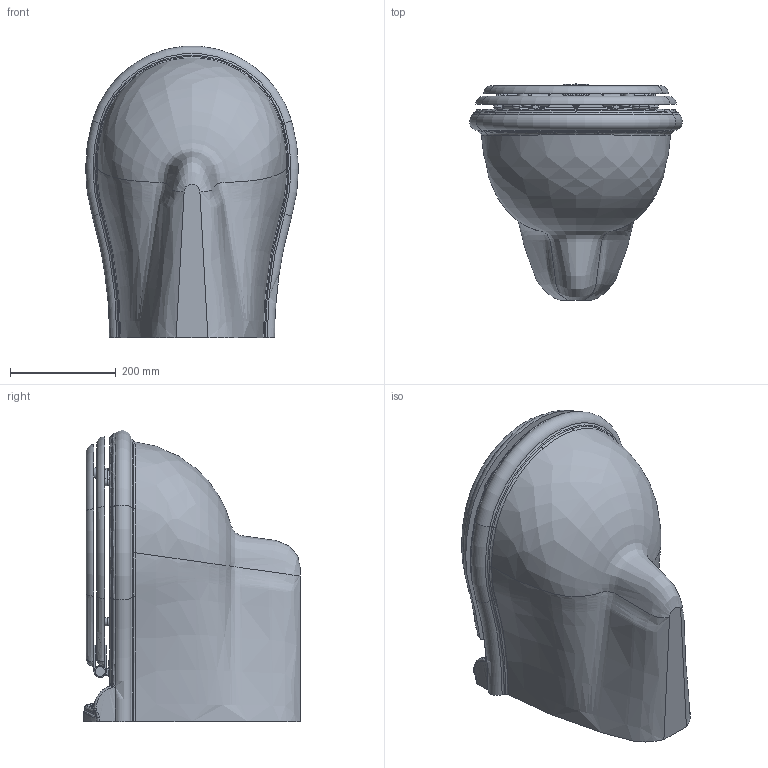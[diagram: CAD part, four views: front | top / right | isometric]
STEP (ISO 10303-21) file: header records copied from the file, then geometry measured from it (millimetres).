
FILE_DESCRIPTION (( 'STEP AP214' ), '1' );
FILE_NAME ('JUB100_SOSK JC1800.STEP', '2017-12-12T06:36:34', ( '' ), ( '' ), 'SwSTEP 2.0', 'SolidWorks 2018', '' );
FILE_SCHEMA (( 'AUTOMOTIVE_DESIGN' ));
Length unit declared in the file: millimetre
Products named in the file (3): JC1800; JUB100_SOSK; JUB100_SOSK JC1800
Assembly tree (2 placements, depth 2):
  JUB100_SOSK JC1800
    JUB100_SOSK
    JC1800
Bounding box: 402.07 x 409.61 x 550.31 mm (x, y, z)
Volume: 22095125.1 mm3; surface area: 1415940 mm2
Topology: 2 solids, 2 shells, 423 faces, 1035 edges, 619 vertices
Faces by surface type: bspline 182, plane 83, cylinder 81, torus 69, cone 6, sphere 2
Full cylindrical faces by diameter (mm): 16 x2, 20 x4, 30 x2, 55 x1, 100 x1
Entity records: 41406 total; most frequent: CARTESIAN_POINT 32860, ORIENTED_EDGE 2008, DIRECTION 1399, EDGE_CURVE 1004, VERTEX_POINT 615, AXIS2_PLACEMENT_3D 594, EDGE_LOOP 465, FACE_OUTER_BOUND 437
